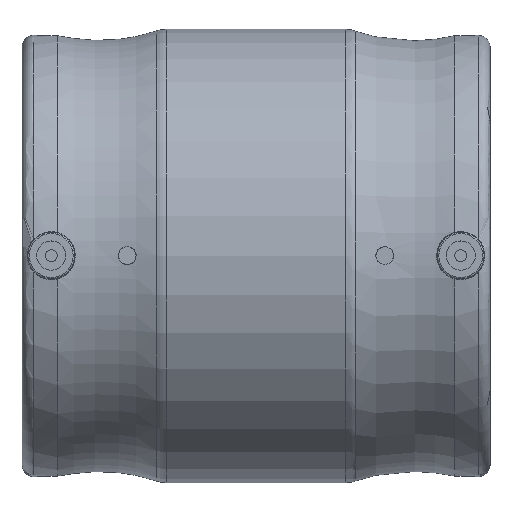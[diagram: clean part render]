
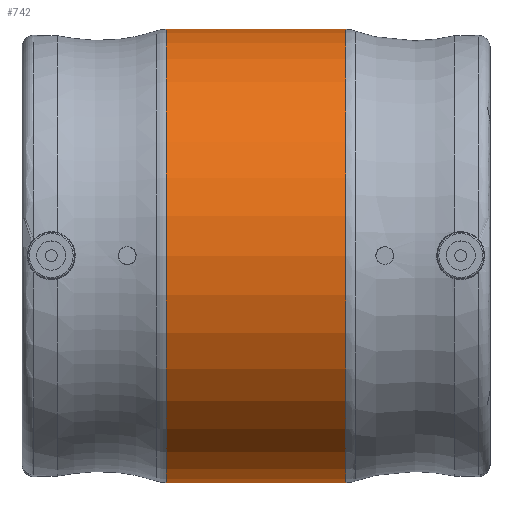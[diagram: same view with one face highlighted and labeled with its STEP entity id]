
A CAD part, top view. The second image highlights one B-rep face of the part: STEP entity #742.
In plain terms, the highlighted cylindrical face has radius 77.5 mm (diameter 155 mm), a full revolution.
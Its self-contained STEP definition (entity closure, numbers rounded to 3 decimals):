
#49=CYLINDRICAL_SURFACE('',#832,77.5);
#236=ORIENTED_EDGE('',*,*,#380,.T.);
#237=ORIENTED_EDGE('',*,*,#381,.T.);
#380=EDGE_CURVE('',#458,#458,#506,.F.);
#381=EDGE_CURVE('',#459,#459,#507,.T.);
#458=VERTEX_POINT('',#1324);
#459=VERTEX_POINT('',#1326);
#506=CIRCLE('',#833,77.5);
#507=CIRCLE('',#834,77.5);
#563=EDGE_LOOP('',(#236));
#564=EDGE_LOOP('',(#237));
#645=FACE_BOUND('',#563,.T.);
#646=FACE_BOUND('',#564,.T.);
#742=ADVANCED_FACE('',(#645,#646),#49,.T.);
#832=AXIS2_PLACEMENT_3D('',#1322,#1006,#1007);
#833=AXIS2_PLACEMENT_3D('',#1323,#1008,#1009);
#834=AXIS2_PLACEMENT_3D('',#1325,#1010,#1011);
#1006=DIRECTION('',(-1.,0.,0.));
#1007=DIRECTION('',(0.,0.,1.));
#1008=DIRECTION('',(1.,0.,0.));
#1009=DIRECTION('',(0.,0.,-1.));
#1010=DIRECTION('',(1.,0.,0.));
#1011=DIRECTION('',(0.,0.,-1.));
#1322=CARTESIAN_POINT('',(-60.,0.,0.));
#1323=CARTESIAN_POINT('',(30.767,0.,0.));
#1324=CARTESIAN_POINT('',(30.767,0.,-77.5));
#1325=CARTESIAN_POINT('',(-30.767,0.,0.));
#1326=CARTESIAN_POINT('',(-30.767,0.,-77.5));
